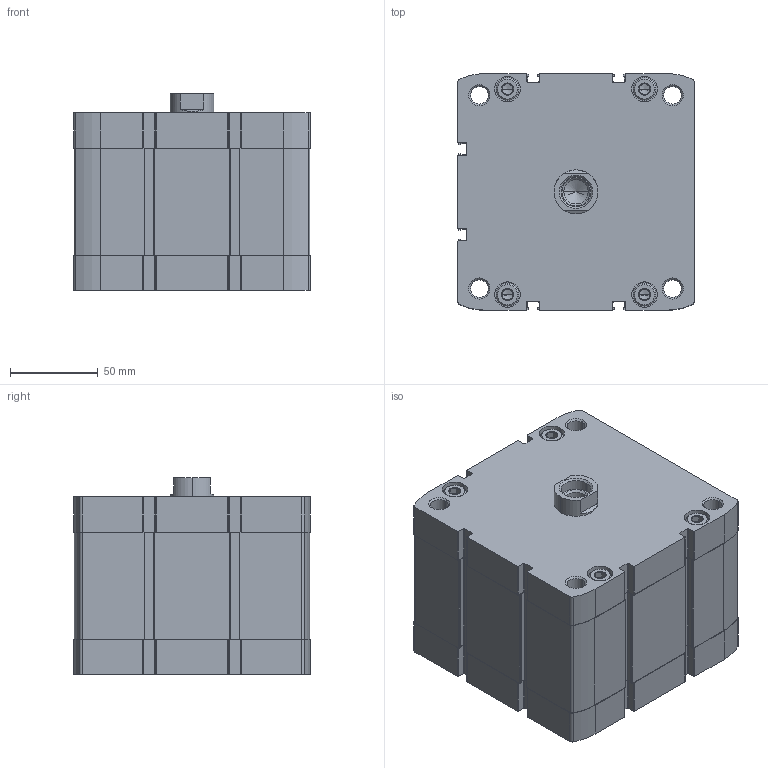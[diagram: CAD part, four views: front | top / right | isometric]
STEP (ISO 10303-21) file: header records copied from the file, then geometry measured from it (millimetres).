
FILE_DESCRIPTION (( 'STEP AP203' ), '1' );
FILE_NAME ('CCN125-20F.STEP', '2020-06-05T19:28:04', ( '' ), ( '' ), 'SwSTEP 2.0', 'SolidWorks 2019', '' );
FILE_SCHEMA (( 'CONFIG_CONTROL_DESIGN' ));
Length unit declared in the file: millimetre
Products named in the file (1): CCN125-20F
Bounding box: 134.6 x 134.6 x 112 mm (x, y, z)
Volume: 1510937.8 mm3; surface area: 205119 mm2
Topology: 2 solids, 2 shells, 535 faces, 1370 edges, 861 vertices
Faces by surface type: plane 267, cylinder 194, cone 74
Entity records: 17215 total; most frequent: CARTESIAN_POINT 3931, DIRECTION 2876, ORIENTED_EDGE 2704, EDGE_CURVE 1352, AXIS2_PLACEMENT_3D 1054, VERTEX_POINT 861, LINE 768, VECTOR 768
